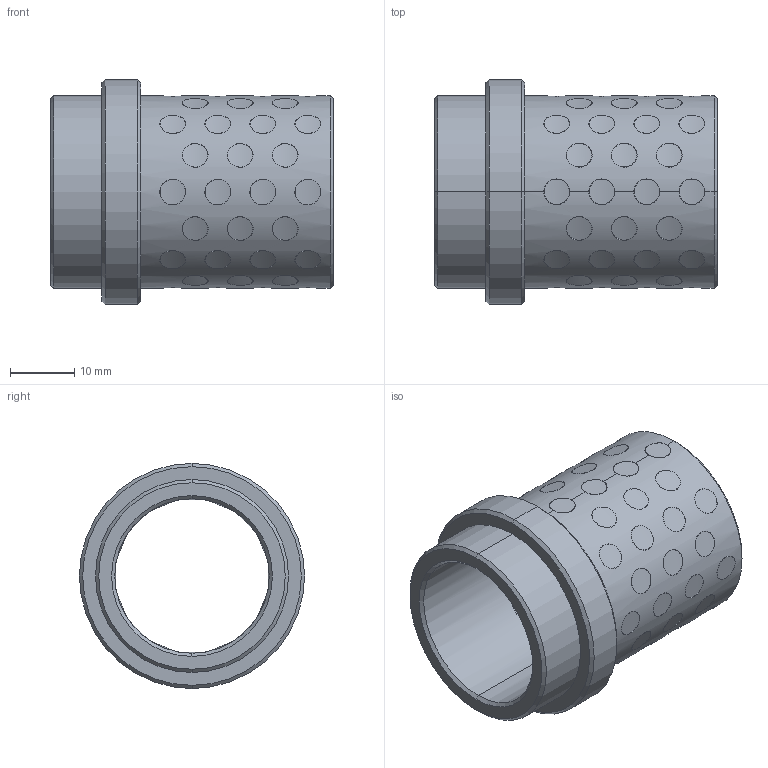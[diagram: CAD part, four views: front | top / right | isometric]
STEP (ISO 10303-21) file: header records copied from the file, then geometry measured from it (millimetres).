
FILE_DESCRIPTION((''),'2;1');
FILE_NAME('G31224036','2017-12-30T',('MANU'),(''),'PRO/ENGINEER BY PARAMETRIC TECHNOLOGY CORPORATION, 2012130','PRO/ENGINEER BY PARAMETRIC TECHNOLOGY CORPORATION, 2012130','');
FILE_SCHEMA(('CONFIG_CONTROL_DESIGN'));
Length unit declared in the file: millimetre
Products named in the file (1): G31224036
Bounding box: 44 x 35 x 35 mm (x, y, z)
Volume: 12605.7 mm3; surface area: 12597.7 mm2
Topology: 57 solids, 57 shells, 360 faces, 768 edges, 508 vertices
Faces by surface type: cylinder 344, cone 12, plane 4
Entity records: 16590 total; most frequent: CARTESIAN_POINT 9528, ORIENTED_EDGE 1536, DIRECTION 1036, EDGE_CURVE 768, VERTEX_POINT 508, B_SPLINE_CURVE_WITH_KNOTS 480, EDGE_LOOP 460, AXIS2_PLACEMENT_3D 388
